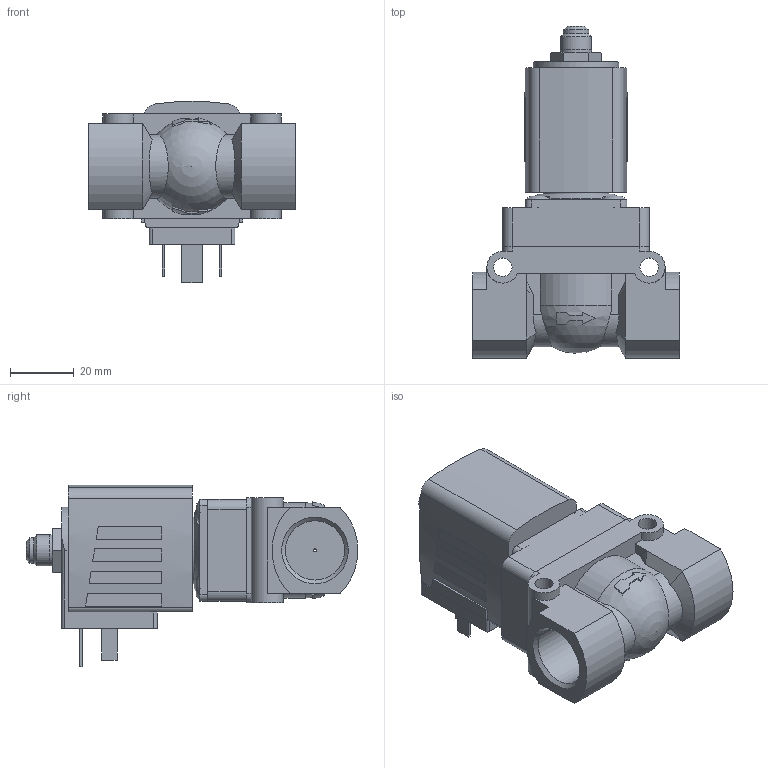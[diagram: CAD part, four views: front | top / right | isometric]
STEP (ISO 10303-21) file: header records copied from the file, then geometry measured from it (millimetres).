
FILE_DESCRIPTION(/* description */ ('STEP AP214'),/* implementation_level */ '2;1');
FILE_NAME(/* name */ '5404-300198-Servo-assisted_2_2_way_piston_valve',/* time_stamp */ '2024-02-27T15:45:06+01:00',/* author */ ('License CC BY-ND 4.0'),/* organization */ ('CADENAS'),/* preprocessor_version */ 'ST-DEVELOPER v19.3',/* originating_system */ 'PARTsolutions',/* authorisation */ ' ');
FILE_SCHEMA (('AUTOMOTIVE_DESIGN {1 0 10303 214 3 1 1}'));
Length unit declared in the file: millimetre
Products named in the file (4): 5404-300198-Servo-assisted 2/2 way piston valve; 5282g-8412MS000-2/2-Wege-Magnetventil_Gehaeuse; 5282d-12MSAU3N-2/2-Wege-Magnetventil_Deckel; AC10ex-5NA38-Gewinde-Coil
Assembly tree (3 placements, depth 2):
  5404-300198-Servo-assisted 2/2 way piston valve
    5282g-8412MS000-2/2-Wege-Magnetventil_Gehaeuse
    5282d-12MSAU3N-2/2-Wege-Magnetventil_Deckel
    AC10ex-5NA38-Gewinde-Coil
Bounding box: 65 x 104.3 x 56.91 mm (x, y, z)
Volume: 119592.5 mm3; surface area: 28434.9 mm2
Topology: 3 solids, 3 shells, 241 faces, 592 edges, 387 vertices
Faces by surface type: plane 154, cylinder 61, cone 18, torus 5, sphere 3
Full cylindrical faces by diameter (mm): 1 x1, 2.013 x1, 2.7 x1, 4 x4, 5.8 x2, 7.5 x4, 7.6 x4, 8 x1, 9.73 x1, 9.74 x1, 18.631 x2, 21 x1
Entity records: 7728 total; most frequent: CARTESIAN_POINT 1307, DIRECTION 1208, ORIENTED_EDGE 1090, EDGE_CURVE 545, AXIS2_PLACEMENT_3D 454, VERTEX_POINT 375, EDGE_LOOP 312, FACE_BOUND 312
